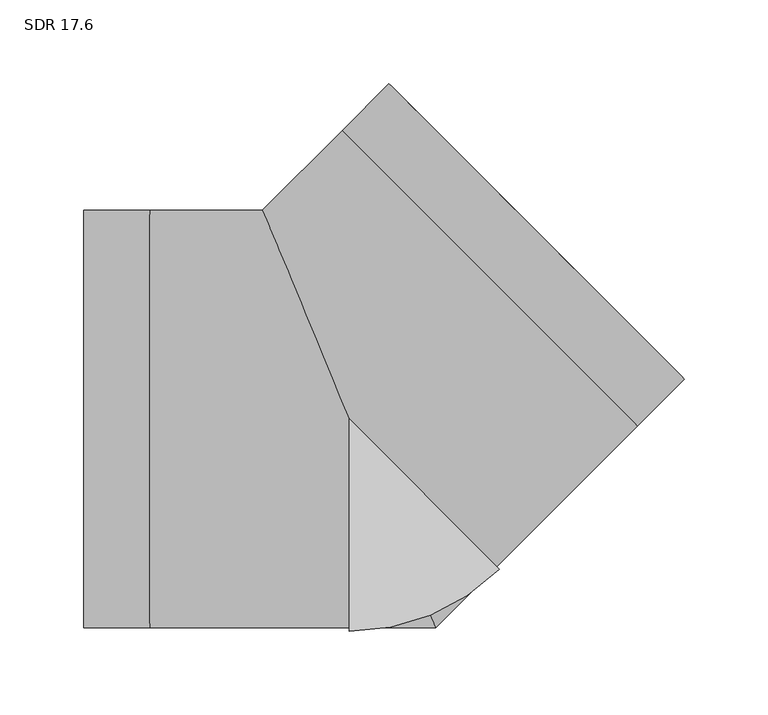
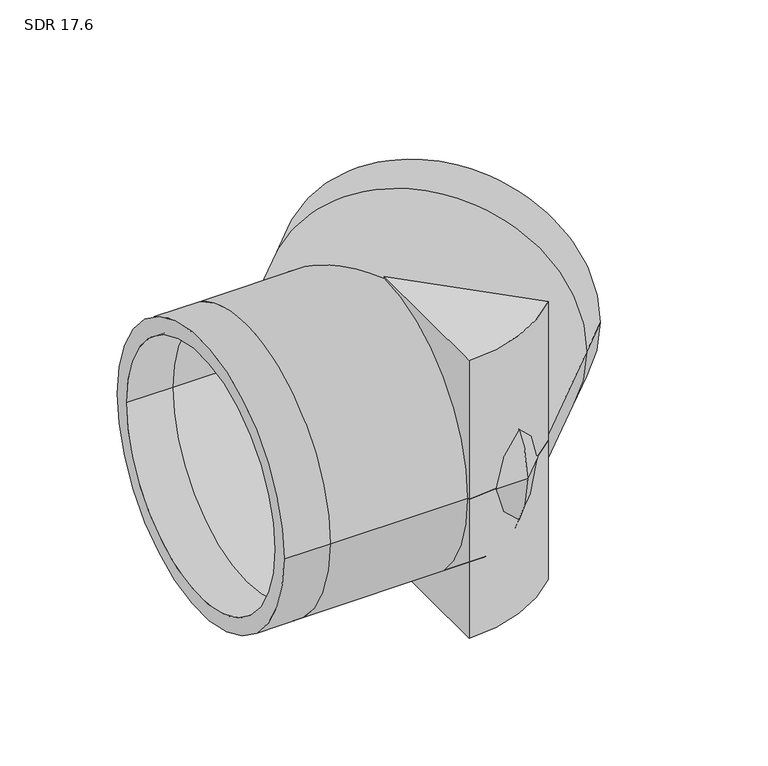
"""IFC4 building model written with IfcOpenShell, lengths in millimetres: pipe fitting geometry, Aquatherm - Elbow Blue BW Segmented : SDR 17.6."""

from ifc_helpers import new_model, si_unit, point, frame, origin, origin_with_axes, origin_2d, place, context, project, spatial, polyline, circle_curve, ellipse_curve, trimmed, segment, composite_curve, outline, extrude, source, transform, mapped, element, save
from ifc_brep_helpers import plane_surface, cylinder_surface, revolved_surface, advanced_brep


def sdr_17_6_badf88d5(model_context):
    return source(origin(), model_context, "Body", "SolidModel", [
        extrude(outline(composite_curve([segment(polyline([(0.0, -127.0), (0.0, 0.0), (89.8025612, -89.8025612)]), True, "CONTINUOUS"), segment(trimmed(circle_curve(origin_2d(), 127.0), [point((89.8025612, -89.8025612))], [point((0.0, -127.0))], False, "CARTESIAN"), True, "CONTINUOUS")], self_intersect=False)), frame((0.0, 0.0, -127.0), z_axis=(0.0, 0.0, 1.0), x_axis=(1.0, 0.0, 0.0)), (0.0, 0.0, 1.0), 127.0),
        extrude(outline(composite_curve([segment(trimmed(circle_curve(origin_2d(), 127.0), [point((89.8025612, -89.8025612))], [point((0.0, -127.0))], False, "CARTESIAN"), True, "CONTINUOUS"), segment(polyline([(0.0, -127.0), (0.0, 0.0), (89.8025612, -89.8025612)]), True, "CONTINUOUS")], self_intersect=False)), origin_with_axes(), (0.0, 0.0, 1.0), 127.0),
        advanced_brep(
        [(-158.75, -124.968, 0.0), (-158.75, 124.968, 0.0), (-158.75, -110.7683515, 0.0), (-158.75, 110.7683515, 0.0), (200.6189217, 23.8874813, 0.0), (23.8874813, 200.6189217, 0.0), (190.578254, 33.928149, 0.0), (33.928149, 190.578254, 0.0), (-119.0625, -124.968, 0.0), (-119.0625, 124.968, 0.0), (-119.0625, -110.7683515, 0.0), (-119.0625, 110.7683515, 0.0), (51.7634405, -124.968, 0.0), (-51.7634405, 124.968, 0.0), (45.8817535, -110.7683515, 0.0), (-45.8817535, 110.7683515, 0.0), (172.5556214, -4.1758191, 0.0), (-4.1758191, 172.5556214, 0.0), (162.5149536, 5.8648486, 0.0), (5.8648486, 162.5149536, 0.0)],
        [
            (0, 1, circle_curve(frame((-158.75, 0.0, 0.0), z_axis=(-1.0, 0.0, 0.0), x_axis=(0.0, 1.0, 0.0)), 124.968)),
            (1, 0, circle_curve(frame((-158.75, 0.0, 0.0), z_axis=(-1.0, 0.0, 0.0), x_axis=(0.0, 1.0, 0.0)), 124.968)),
            (2, 3, circle_curve(frame((-158.75, 0.0, 0.0), z_axis=(1.0, 0.0, 0.0), x_axis=(0.0, 1.0, 0.0)), 110.7683515)),
            (3, 2, circle_curve(frame((-158.75, 0.0, 0.0), z_axis=(1.0, 0.0, 0.0), x_axis=(0.0, 1.0, 0.0)), 110.7683515)),
            (4, 5, circle_curve(frame((112.2532015, 112.2532015, 0.0), z_axis=(0.7071067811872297, 0.7071067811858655, 0.0), x_axis=(-0.7071067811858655, 0.7071067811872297, 0.0)), 124.968)),
            (5, 4, circle_curve(frame((112.2532015, 112.2532015, 0.0), z_axis=(0.7071067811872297, 0.7071067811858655, 0.0), x_axis=(-0.7071067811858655, 0.7071067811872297, 0.0)), 124.968)),
            (6, 7, circle_curve(frame((112.2532015, 112.2532015, 0.0), z_axis=(-0.7071067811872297, -0.7071067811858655, 0.0), x_axis=(-0.7071067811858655, 0.7071067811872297, 0.0)), 110.7683515)),
            (7, 6, circle_curve(frame((112.2532015, 112.2532015, 0.0), z_axis=(-0.7071067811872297, -0.7071067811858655, 0.0), x_axis=(-0.7071067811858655, 0.7071067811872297, 0.0)), 110.7683515)),
            (0, 8),
            (8, 9, circle_curve(frame((-119.0625, 0.0, 0.0), z_axis=(-1.0, 0.0, 0.0), x_axis=(0.0, 1.0, 0.0)), 124.968)),
            (9, 1),
            (9, 8, circle_curve(frame((-119.0625, 0.0, 0.0), z_axis=(-1.0, 0.0, 0.0), x_axis=(0.0, 1.0, 0.0)), 124.968)),
            (2, 10),
            (10, 11, circle_curve(frame((-119.0625, 0.0, 0.0), z_axis=(1.0, 0.0, 0.0), x_axis=(0.0, 1.0, 0.0)), 110.7683515)),
            (11, 3),
            (11, 10, circle_curve(frame((-119.0625, 0.0, 0.0), z_axis=(1.0, 0.0, 0.0), x_axis=(0.0, 1.0, 0.0)), 110.7683515)),
            (8, 12),
            (12, 13, ellipse_curve(frame((0.0, 0.0, 0.0), z_axis=(-0.9238795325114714, -0.382683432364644, 0.0), x_axis=(-0.3826834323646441, 0.9238795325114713, 0.0)), 135.2643885, 124.968)),
            (13, 9),
            (13, 12, ellipse_curve(frame((0.0, 0.0, 0.0), z_axis=(-0.9238795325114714, -0.382683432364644, 0.0), x_axis=(-0.3826834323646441, 0.9238795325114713, 0.0)), 135.2643885, 124.968)),
            (10, 14),
            (14, 15, ellipse_curve(frame((0.0, 0.0, 0.0), z_axis=(0.9238795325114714, 0.382683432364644, 0.0), x_axis=(0.3826834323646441, -0.9238795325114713, 0.0)), 119.8947997, 110.7683515)),
            (15, 11),
            (15, 14, ellipse_curve(frame((0.0, 0.0, 0.0), z_axis=(0.9238795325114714, 0.382683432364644, 0.0), x_axis=(0.3826834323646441, -0.9238795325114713, 0.0)), 119.8947997, 110.7683515)),
            (12, 16),
            (16, 17, circle_curve(frame((84.1899011, 84.1899011, 0.0), z_axis=(-0.7071067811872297, -0.7071067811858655, 0.0), x_axis=(-0.7071067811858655, 0.7071067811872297, 0.0)), 124.968)),
            (17, 13),
            (17, 16, circle_curve(frame((84.1899011, 84.1899011, 0.0), z_axis=(-0.7071067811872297, -0.7071067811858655, 0.0), x_axis=(-0.7071067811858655, 0.7071067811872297, 0.0)), 124.968)),
            (14, 18),
            (18, 19, circle_curve(frame((84.1899011, 84.1899011, 0.0), z_axis=(0.7071067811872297, 0.7071067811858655, 0.0), x_axis=(-0.7071067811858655, 0.7071067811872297, 0.0)), 110.7683515)),
            (19, 15),
            (19, 18, circle_curve(frame((84.1899011, 84.1899011, 0.0), z_axis=(0.7071067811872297, 0.7071067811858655, 0.0), x_axis=(-0.7071067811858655, 0.7071067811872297, 0.0)), 110.7683515)),
            (16, 4),
            (5, 17),
            (18, 6),
            (7, 19),
        ],
        [
            plane_surface(frame((-158.75, 0.0, 0.0), z_axis=(-1.0, 0.0, 0.0), x_axis=(0.0, 0.0, 1.0))),
            plane_surface(frame((112.2532015, 112.2532015, 0.0), z_axis=(0.7071067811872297, 0.7071067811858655, 0.0), x_axis=(0.0, 0.0, 1.0))),
            cylinder_surface(frame((-158.75, 0.0, 0.0), z_axis=(-1.0, 0.0, 0.0), x_axis=(0.0, 1.0, 0.0)), 124.968),
            revolved_surface(polyline([(-119.0625, 110.7683515, 0.0), (-158.75, 110.7683515, 0.0)]), (-158.75, 0.0, 0.0), (1.0, 0.0, 0.0)),
            cylinder_surface(frame((-119.0625, 0.0, 0.0), z_axis=(-1.0, 0.0, 0.0), x_axis=(0.0, 1.0, 0.0)), 124.968),
            revolved_surface(polyline([(45.8817535, 110.7683515, 0.0), (-119.0625, 110.7683515, 0.0)]), (-119.0625, 0.0, 0.0), (1.0, 0.0, 0.0)),
            cylinder_surface(frame((0.0, 0.0, 0.0), z_axis=(-0.7071067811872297, -0.7071067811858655, 0.0), x_axis=(-0.7071067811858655, 0.7071067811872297, 0.0)), 124.968),
            revolved_surface(polyline([(5.864848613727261, 162.51495358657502, 0.0), (-110.76835149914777, 45.881753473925, 0.0)]), (0.0, 0.0, 0.0), (0.7071067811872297, 0.7071067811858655, 0.0)),
            cylinder_surface(frame((84.1899011, 84.1899011, 0.0), z_axis=(-0.7071067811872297, -0.7071067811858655, 0.0), x_axis=(-0.7071067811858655, 0.7071067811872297, 0.0)), 124.968),
            revolved_surface(polyline([(33.92814901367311, 190.57825398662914, 0.0), (5.864848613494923, 162.5149535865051, 0.0)]), (84.1899011, 84.1899011, 0.0), (0.7071067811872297, 0.7071067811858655, 0.0)),
        ],
        [
            (0, [[1, 2], [3, 4]]),
            (1, [[5, 6], [7, 8]]),
            (2, [[-1, 9, 10, 11]]),
            (2, [[-2, -11, 12, -9]]),
            (3, [[-3, 13, 14, 15]]),
            (3, [[-4, -15, 16, -13]]),
            (4, [[-10, 17, 18, 19]]),
            (4, [[-12, -19, 20, -17]]),
            (5, [[-14, 21, 22, 23]]),
            (5, [[-16, -23, 24, -21]]),
            (6, [[-18, 25, 26, 27]]),
            (6, [[-20, -27, 28, -25]]),
            (7, [[-22, 29, 30, 31]]),
            (7, [[-24, -31, 32, -29]]),
            (8, [[-26, 33, -6, 34]]),
            (8, [[-28, -34, -5, -33]]),
            (9, [[-30, 35, -8, 36]]),
            (9, [[-32, -36, -7, -35]]),
        ],
    ),
    ])


if __name__ == "__main__":
    model = new_model("IFC4")
    model_context = context("Model", 3, world=origin())
    ifc_project = project(units=[si_unit("LENGTHUNIT", "METRE", prefix="MILLI")], contexts=[model_context])
    site = spatial("IfcSite", under=ifc_project)
    building = spatial("IfcBuilding", under=site)
    placement = place(None, origin())
    sdr_17_6_shape = sdr_17_6_badf88d5(model_context)
    element("IfcPipeFitting", 1, ObjectType="Aquatherm - Elbow Blue BW Segmented : SDR 17.6", at=placement, inside=building, context=model_context, shape_type="MappedRepresentation", body=[
        mapped(sdr_17_6_shape, transform((0.0, 0.0, 0.0), x_axis=(1.0, 0.0, 0.0), y_axis=(0.0, 1.0, 0.0), z_axis=(0.0, 0.0, 1.0))),
    ])
    save(model, "model.ifc")
